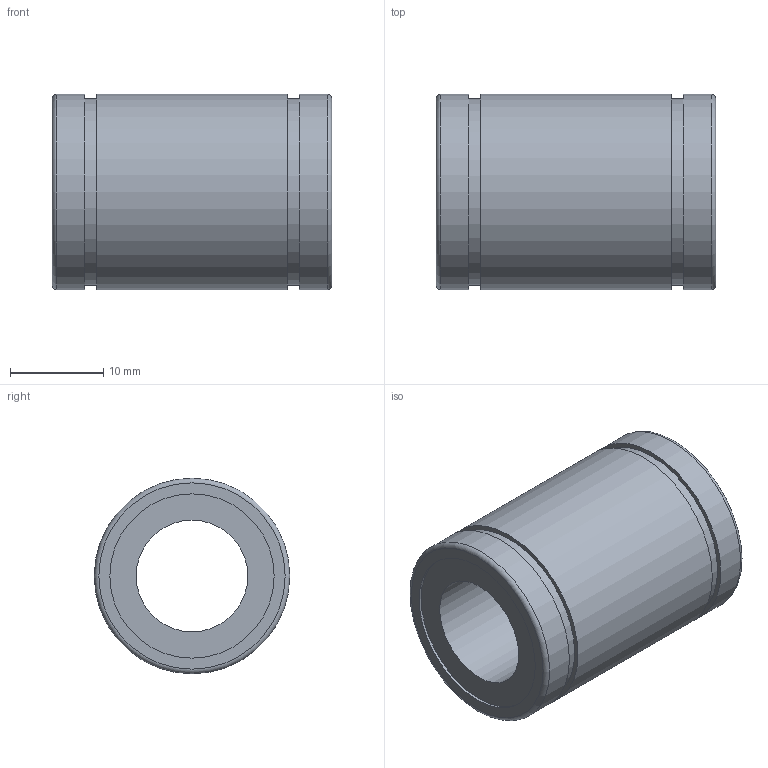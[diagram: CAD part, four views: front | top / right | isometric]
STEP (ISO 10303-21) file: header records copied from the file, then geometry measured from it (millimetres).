
FILE_DESCRIPTION(/* description */ ('STEP AP214'),/* implementation_level */ '2;1');
FILE_NAME(/* name */ '\\JOINapp01\Profiles\martins\Desktop\rolamento\LM12UU.step',/* time_stamp */ '2018-02-15T08:12:18-02:00',/* author */ ('martins'),/* organization */ ('TraceParts S.A.'),/* preprocessor_version */ 'ST-DEVELOPER v16.1',/* originating_system */ 'Autodesk Inventor 2016',/* authorisation */ ' ');
FILE_SCHEMA (('AUTOMOTIVE_DESIGN { 1 0 10303 214 3 1 1 }'));
Length unit declared in the file: millimetre
Products named in the file (2): lm12uu; Assembly8
Assembly tree (1 placements, depth 2):
  Assembly8
    lm12uu
Bounding box: 30 x 21 x 21 mm (x, y, z)
Volume: 6827.6 mm3; surface area: 3688.2 mm2
Topology: 1 solids, 1 shells, 187 faces, 499 edges, 333 vertices
Faces by surface type: plane 133, bspline 44, cylinder 8, torus 2
Full cylindrical faces by diameter (mm): 12 x1, 17.64 x2, 20 x2, 21 x3
Entity records: 6146 total; most frequent: CARTESIAN_POINT 1709, ORIENTED_EDGE 972, DIRECTION 708, EDGE_CURVE 486, LINE 380, VECTOR 380, VERTEX_POINT 330, EDGE_LOOP 218
